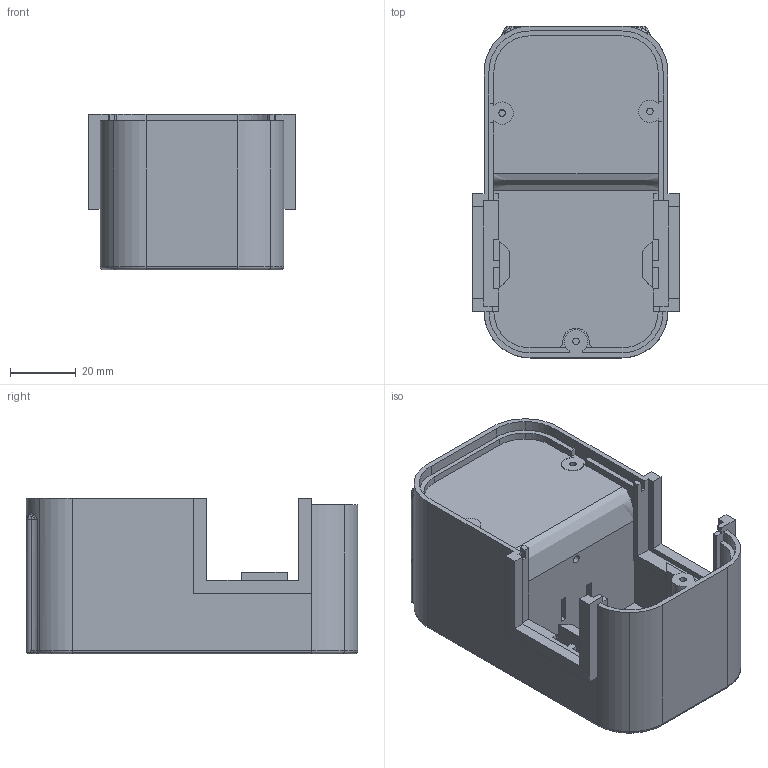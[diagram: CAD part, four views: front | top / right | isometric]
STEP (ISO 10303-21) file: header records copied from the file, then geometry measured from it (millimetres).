
FILE_DESCRIPTION( ( '' ), ' ' );
FILE_NAME( 'AEG_Adapter.stp', ' ', ( '' ), ( '' ), ' ', 'ACIS 14.0', ' ' );
FILE_SCHEMA( ( 'automotive_design' ) );
Length unit declared in the file: inch
Products named in the file (1): 1
Bounding box: 63 x 101 x 47.4 mm (x, y, z)
Volume: 88347.9 mm3; surface area: 41887.7 mm2
Topology: 1 solids, 1 shells, 305 faces, 855 edges, 550 vertices
Faces by surface type: plane 186, cylinder 90, torus 16, bspline 11, sphere 2
Entity records: 21128 total; most frequent: CARTESIAN_POINT 3806, STYLED_ITEM 1703, PRESENTATION_STYLE_ASSIGNMENT 1703, COLOUR_RGB 1703, ORIENTED_EDGE 1696, DIRECTION 1593, EDGE_CURVE 847, CURVE_STYLE 847
